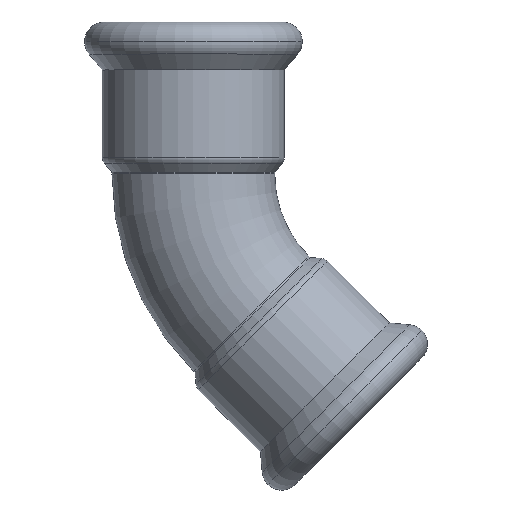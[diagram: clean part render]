
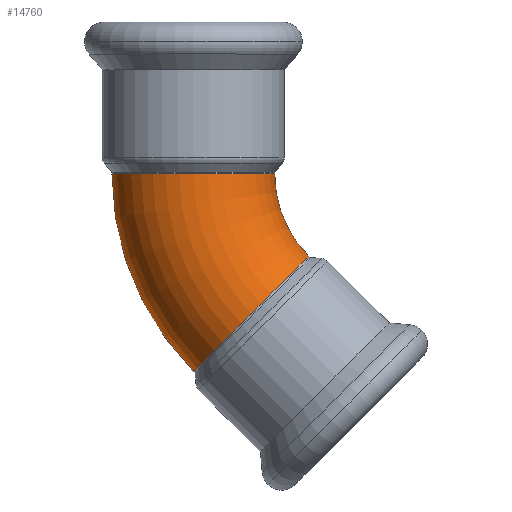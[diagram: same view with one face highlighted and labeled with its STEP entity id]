
A CAD part, top view. The second image highlights one B-rep face of the part: STEP entity #14760.
In plain terms, the highlighted toroidal (fillet/blend) face has major radius 34 mm and minor radius 14 mm.
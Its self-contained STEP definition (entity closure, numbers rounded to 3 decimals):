
#14060=CARTESIAN_POINT('',(-404.306,41.556,0.));
#14070=DIRECTION('',(0.,-1.,0.));
#14080=DIRECTION('',(-1.,0.,0.));
#14090=AXIS2_PLACEMENT_3D('',#14060,#14070,#14080);
#14100=CIRCLE('',#14090,14.);
#14110=CARTESIAN_POINT('',(-404.306,41.556,14.));
#14120=VERTEX_POINT('',#14110);
#14130=CARTESIAN_POINT('',(-418.306,41.556,0.));
#14140=VERTEX_POINT('',#14130);
#14150=EDGE_CURVE('',#14120,#14140,#14100,.T.);
#14290=CARTESIAN_POINT('',(-390.306,41.556,
0.));
#14300=VERTEX_POINT('',#14290);
#14330=EDGE_CURVE('',#14300,#14120,#14100,.T.);
#14380=CARTESIAN_POINT('',(-370.306,41.556,0.));
#14390=DIRECTION('',(0.,0.,1.));
#14400=DIRECTION('',(-1.,0.,0.));
#14410=AXIS2_PLACEMENT_3D('',#14380,#14390,#14400);
#14420=TOROIDAL_SURFACE('',#14410,34.,14.);
#14430=CARTESIAN_POINT('',(-394.348,17.515,0.));
#14440=DIRECTION('',(0.707,-0.707,0.));
#14450=DIRECTION('',(-0.707,-0.707,0.));
#14460=AXIS2_PLACEMENT_3D('',#14430,#14440,#14450);
#14470=CIRCLE('',#14460,14.);
#14480=CARTESIAN_POINT('',(-394.348,17.515,14.));
#14490=VERTEX_POINT('',#14480);
#14500=CARTESIAN_POINT('',(-404.247,7.615,
0.));
#14510=VERTEX_POINT('',#14500);
#14520=EDGE_CURVE('',#14490,#14510,#14470,.T.);
#14530=ORIENTED_EDGE('',*,*,#14520,.F.);
#14540=CARTESIAN_POINT('',(-370.306,41.556,
0.));
#14550=DIRECTION('',(0.,0.,1.));
#14560=DIRECTION('',(-1.,0.,0.));
#14570=AXIS2_PLACEMENT_3D('',#14540,#14550,#14560);
#14580=CIRCLE('',#14570,48.);
#14590=EDGE_CURVE('',#14140,#14510,#14580,.T.);
#14600=ORIENTED_EDGE('',*,*,#14590,.T.);
#14610=ORIENTED_EDGE('',*,*,#14150,.T.);
#14620=ORIENTED_EDGE('',*,*,#14330,.T.);
#14630=CARTESIAN_POINT('',(-370.306,41.556,
0.));
#14640=DIRECTION('',(0.,0.,1.));
#14650=DIRECTION('',(-1.,0.,0.));
#14660=AXIS2_PLACEMENT_3D('',#14630,#14640,#14650);
#14670=CIRCLE('',#14660,20.);
#14680=CARTESIAN_POINT('',(-384.448,27.414,
0.));
#14690=VERTEX_POINT('',#14680);
#14700=EDGE_CURVE('',#14300,#14690,#14670,.T.);
#14710=ORIENTED_EDGE('',*,*,#14700,.F.);
#14720=EDGE_CURVE('',#14690,#14490,#14470,.T.);
#14730=ORIENTED_EDGE('',*,*,#14720,.F.);
#14740=EDGE_LOOP('',(#14730,#14710,#14620,#14610,#14600,#14530));
#14750=FACE_OUTER_BOUND('',#14740,.T.);
#14760=ADVANCED_FACE('',(#14750),#14420,.T.);
